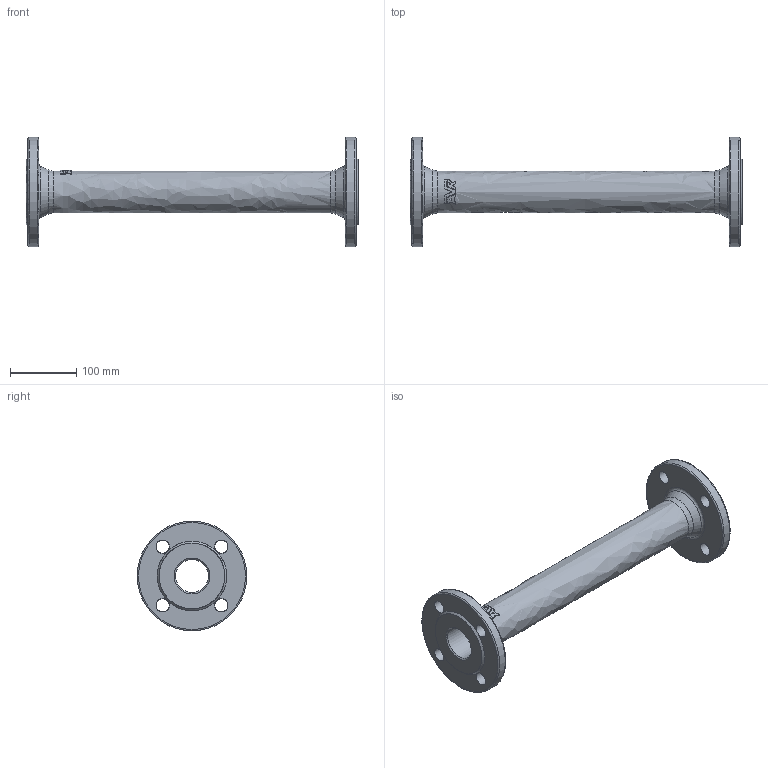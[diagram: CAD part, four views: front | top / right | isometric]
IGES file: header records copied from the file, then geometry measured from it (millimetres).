
Start section: SolidWorks IGES file using analytic representation for surfaces
Global section: file name: \\avksan2\techshare\PBM outline export from Enovia\O_712_4810_DN50_1X_REV01.igs; native system: SolidWorks 2019; preprocessor: SolidWorks 2019; author: pbm; date: 211201.111019; units: millimetre
Bounding box: 500 x 165 x 165 mm (x, y, z)
Surface area: 261616.5 mm2 (no closed solid volume)
Topology: 0 solids, 0 shells, 110 faces, 1194 edges, 1159 vertices
Faces by surface type: bspline 80, revolution 30
